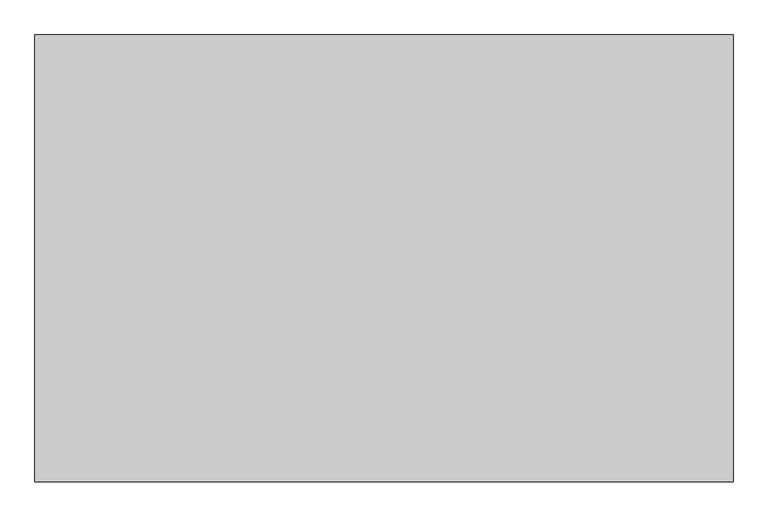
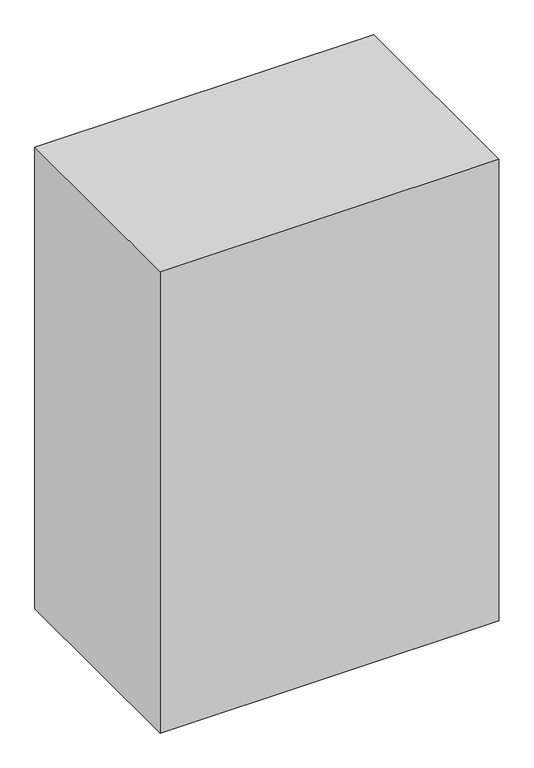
"""IFC4 building model written with IfcOpenShell, lengths in millimetres: proxy geometry, BIMHealth-Upright_Chair_Zone-LOD2A-v1 : BIMHealth-Upright_Chair_Zone-LOD2A-v1."""

from ifc_helpers import new_model, si_unit, origin, origin_with_axes, place, context, project, spatial, polyline, outline, extrude, source, transform, mapped, element, save


def generic_models_2b15bbc9(model_context):
    return source(origin(), model_context, "Body", "SweptSolid", [
        extrude(outline(polyline([(1250.0, 0.0), (1250.0, -800.0), (0.0, -800.0), (0.0, 0.0), (1250.0, 0.0)])), origin_with_axes(), (0.0, 0.0, 1.0), 1800.0),
    ])


if __name__ == "__main__":
    model = new_model("IFC4")
    model_context = context("Model", 3, world=origin())
    ifc_project = project(units=[si_unit("LENGTHUNIT", "METRE", prefix="MILLI")], contexts=[model_context])
    site = spatial("IfcSite", under=ifc_project)
    building = spatial("IfcBuilding", under=site)
    placement = place(None, origin())
    generic_models_shape = generic_models_2b15bbc9(model_context)
    element("IfcBuildingElementProxy", 1, Name="BIMHealth-Upright_Chair_Zone-LOD2A-v1 : BIMHealth-Upright_Chair_Zone-LOD2A-v1", ObjectType="BIMHealth-Upright_Chair_Zone-LOD2A-v1 : BIMHealth-Upright_Chair_Zone-LOD2A-v1", at=placement, inside=building, context=model_context, shape_type="MappedRepresentation", body=[
        mapped(generic_models_shape, transform((0.0, 0.0, 0.0), x_axis=(1.0, 0.0, 0.0), y_axis=(0.0, 1.0, 0.0), z_axis=(0.0, 0.0, 1.0))),
    ])
    save(model, "model.ifc")
